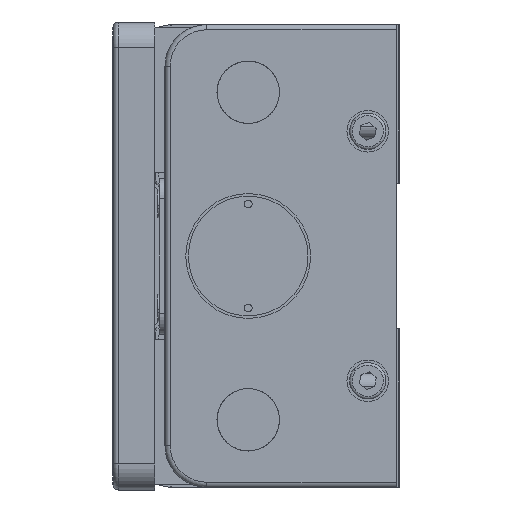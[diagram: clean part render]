
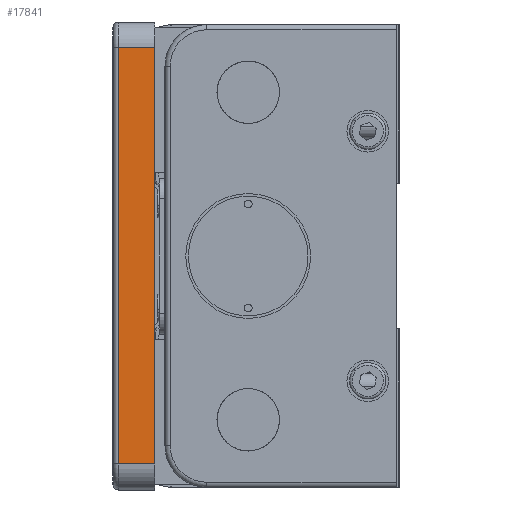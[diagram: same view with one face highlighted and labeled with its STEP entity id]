
A CAD part, left-side view. The second image highlights one B-rep face of the part: STEP entity #17841.
In plain terms, the highlighted planar face has unit normal (-1, 0, 0).
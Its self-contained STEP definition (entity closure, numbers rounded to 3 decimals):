
#4244 = EDGE_CURVE ( 'NONE', #28222, #32482, #10783, .T. ) ;
#5373 = CARTESIAN_POINT ( 'NONE',  ( -64.278, 48., -40. ) ) ;
#6899 = CARTESIAN_POINT ( 'NONE',  ( -64.278, 41., -40. ) ) ;
#7636 = DIRECTION ( 'NONE',  ( 0., -1., 0. ) ) ;
#8715 = AXIS2_PLACEMENT_3D ( 'NONE', #27988, #9954, #31041 ) ;
#9954 = DIRECTION ( 'NONE',  ( 1., 0., 0. ) ) ;
#10185 = VECTOR ( 'NONE', #7636, 1000. ) ;
#10771 = DIRECTION ( 'NONE',  ( 0., 0., 1. ) ) ;
#10783 = LINE ( 'NONE', #17035, #27716 ) ;
#11138 = DIRECTION ( 'NONE',  ( 0., 1., 0. ) ) ;
#11240 = ORIENTED_EDGE ( 'NONE', *, *, #35496, .T. ) ;
#13774 = VECTOR ( 'NONE', #10771, 1000. ) ;
#15149 = CARTESIAN_POINT ( 'NONE',  ( -64.278, 48., -40. ) ) ;
#17035 = CARTESIAN_POINT ( 'NONE',  ( -64.278, 49., 40. ) ) ;
#17841 = ADVANCED_FACE ( 'NONE', ( #36835 ), #21938, .F. ) ;
#18173 = LINE ( 'NONE', #25644, #10185 ) ;
#18978 = VERTEX_POINT ( 'NONE', #6899 ) ;
#21382 = EDGE_LOOP ( 'NONE', ( #28531, #23147, #28851, #11240 ) ) ;
#21938 = PLANE ( 'NONE',  #8715 ) ;
#21966 = EDGE_CURVE ( 'NONE', #32482, #34833, #38717, .T. ) ;
#22698 = VECTOR ( 'NONE', #33234, 1000. ) ;
#23147 = ORIENTED_EDGE ( 'NONE', *, *, #21966, .T. ) ;
#25644 = CARTESIAN_POINT ( 'NONE',  ( -64.278, 49., -40. ) ) ;
#26695 = EDGE_CURVE ( 'NONE', #34833, #18978, #18173, .T. ) ;
#27716 = VECTOR ( 'NONE', #11138, 1000. ) ;
#27988 = CARTESIAN_POINT ( 'NONE',  ( -64.278, 49., 45. ) ) ;
#28222 = VERTEX_POINT ( 'NONE', #33057 ) ;
#28417 = CARTESIAN_POINT ( 'NONE',  ( -64.278, 48., 40. ) ) ;
#28531 = ORIENTED_EDGE ( 'NONE', *, *, #4244, .T. ) ;
#28851 = ORIENTED_EDGE ( 'NONE', *, *, #26695, .T. ) ;
#29796 = LINE ( 'NONE', #34627, #13774 ) ;
#31041 = DIRECTION ( 'NONE',  ( 0., 0., -1. ) ) ;
#32482 = VERTEX_POINT ( 'NONE', #28417 ) ;
#33057 = CARTESIAN_POINT ( 'NONE',  ( -64.278, 41., 40. ) ) ;
#33234 = DIRECTION ( 'NONE',  ( 0., 0., -1. ) ) ;
#34627 = CARTESIAN_POINT ( 'NONE',  ( -64.278, 41., 45. ) ) ;
#34833 = VERTEX_POINT ( 'NONE', #5373 ) ;
#35496 = EDGE_CURVE ( 'NONE', #18978, #28222, #29796, .T. ) ;
#36835 = FACE_OUTER_BOUND ( 'NONE', #21382, .T. ) ;
#38717 = LINE ( 'NONE', #15149, #22698 ) ;
